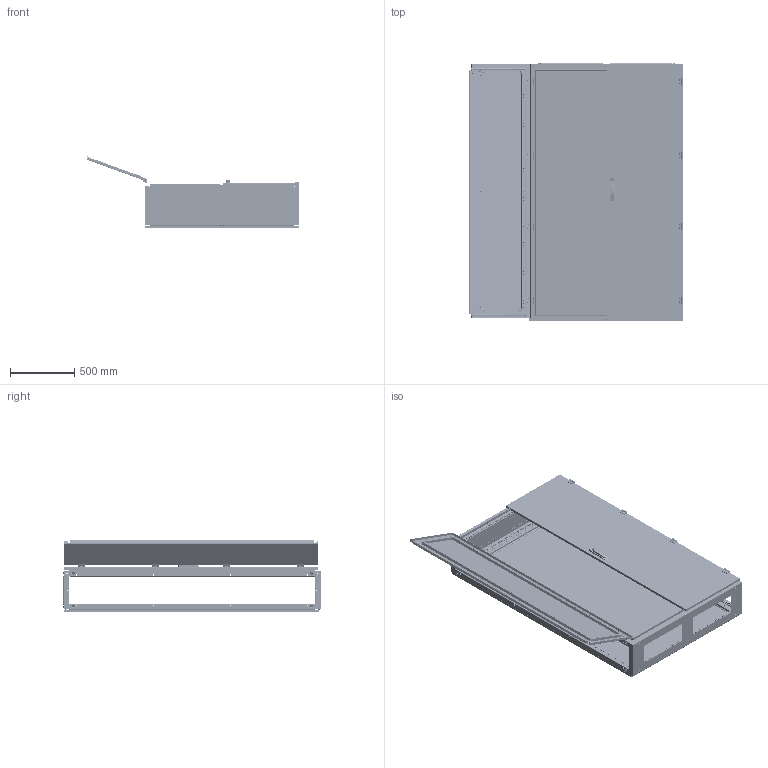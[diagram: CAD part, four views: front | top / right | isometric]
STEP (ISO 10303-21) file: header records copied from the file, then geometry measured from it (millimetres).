
FILE_DESCRIPTION (( 'STEP AP214' ), '1' );
FILE_NAME ('QA201203.step', '2011-08-11T10:25:05', ( 'Radek Veselý' ), ( 'Siemens and Partners' ), 'SwSTEP 2.0', 'SolidWorks 2006303', '' );
FILE_SCHEMA (( 'AUTOMOTIVE_DESIGN' ));
Length unit declared in the file: millimetre
Products named in the file (1): QA201203
Bounding box: 1668.78 x 2004.5 x 562.7 mm (x, y, z)
Volume: 14872424.7 mm3; surface area: 17276125.6 mm2
Topology: 158 solids, 158 shells, 8939 faces, 24752 edges, 16124 vertices
Faces by surface type: plane 4458, cylinder 3723, cone 442, bspline 268, torus 48
Entity records: 377845 total; most frequent: CARTESIAN_POINT 67803, DIRECTION 49246, ORIENTED_EDGE 48912, EDGE_CURVE 24456, AXIS2_PLACEMENT_3D 16748, VERTEX_POINT 16124, VECTOR 15750, LINE 15750
